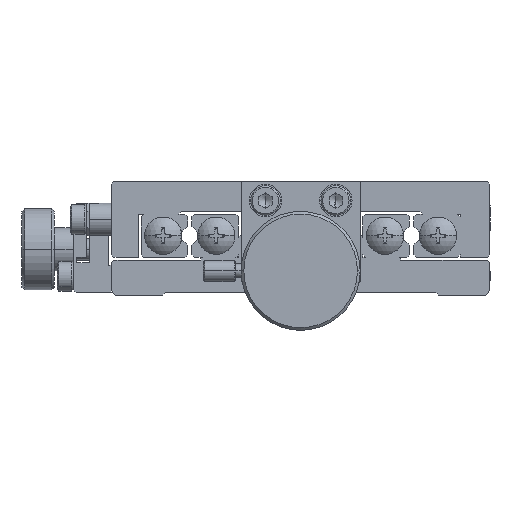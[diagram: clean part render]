
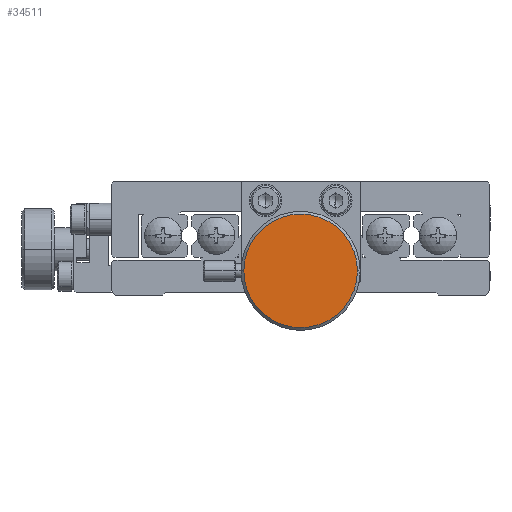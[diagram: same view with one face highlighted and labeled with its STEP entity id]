
A CAD part, front view. The second image highlights one B-rep face of the part: STEP entity #34511.
In plain terms, the highlighted planar face has unit normal (0, -1, 0).
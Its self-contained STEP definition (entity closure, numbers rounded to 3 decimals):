
#32105 = CARTESIAN_POINT ( 'NONE',  ( 0., -110.5, 4.5 ) ) ;
#32121 = DIRECTION ( 'NONE',  ( 1., 0., 0. ) ) ;
#32123 = DIRECTION ( 'NONE',  ( 0., -1., 0. ) ) ;
#32124 = CARTESIAN_POINT ( 'NONE',  ( 0., -110.5, 4.5 ) ) ;
#32126 = AXIS2_PLACEMENT_3D ( 'NONE', #32124, #32123, #32121 ) ;
#32131 = PLANE ( 'NONE',  #32126 ) ;
#32133 = FACE_OUTER_BOUND ( 'NONE', #34514, .T. ) ;
#32327 = DIRECTION ( 'NONE',  ( 1., 0., 0. ) ) ;
#32329 = DIRECTION ( 'NONE',  ( 0., -1., 0. ) ) ;
#32331 = AXIS2_PLACEMENT_3D ( 'NONE', #32105, #32329, #32327 ) ;
#32332 = CIRCLE ( 'NONE', #32331, 10.5 ) ;
#32713 = CARTESIAN_POINT ( 'NONE',  ( -10.5, -110.5, 4.5 ) ) ;
#32729 = CARTESIAN_POINT ( 'NONE',  ( 10.5, -110.5, 4.5 ) ) ;
#32731 = DIRECTION ( 'NONE',  ( 1., 0., 0. ) ) ;
#32733 = DIRECTION ( 'NONE',  ( 0., -1., 0. ) ) ;
#32735 = CARTESIAN_POINT ( 'NONE',  ( 0., -110.5, 4.5 ) ) ;
#32737 = AXIS2_PLACEMENT_3D ( 'NONE', #32735, #32733, #32731 ) ;
#32738 = CIRCLE ( 'NONE', #32737, 10.5 ) ;
#34511 = ADVANCED_FACE ( 'NONE', ( #32133 ), #32131, .T. ) ;
#34514 = EDGE_LOOP ( 'NONE', ( #34519, #34524 ) ) ;
#34519 = ORIENTED_EDGE ( 'NONE', *, *, #34521, .T. ) ;
#34521 = EDGE_CURVE ( 'NONE', #34772, #34643, #32332, .T. ) ;
#34524 = ORIENTED_EDGE ( 'NONE', *, *, #34642, .T. ) ;
#34642 = EDGE_CURVE ( 'NONE', #34643, #34772, #32738, .T. ) ;
#34643 = VERTEX_POINT ( 'NONE', #32729 ) ;
#34772 = VERTEX_POINT ( 'NONE', #32713 ) ;
